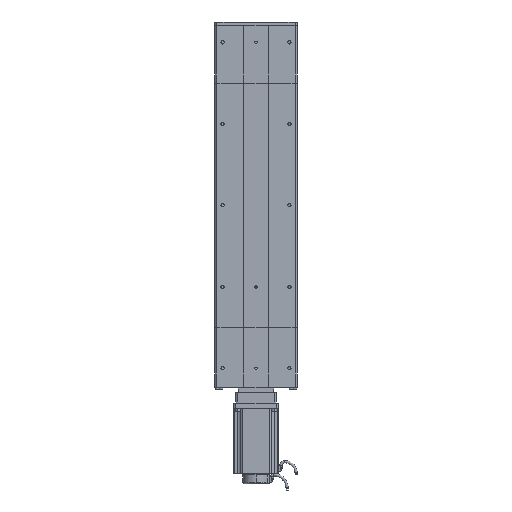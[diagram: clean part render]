
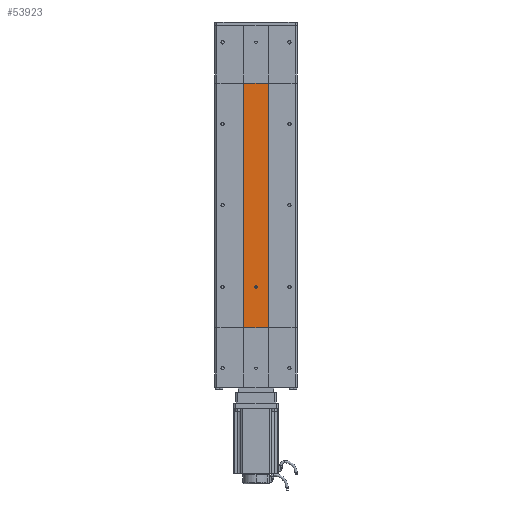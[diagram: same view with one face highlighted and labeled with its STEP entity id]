
A CAD part, front view. The second image highlights one B-rep face of the part: STEP entity #53923.
In plain terms, the highlighted planar face has unit normal (0, -1, 0).
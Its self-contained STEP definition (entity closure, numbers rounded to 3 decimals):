
#5909 = CARTESIAN_POINT ( 'NONE',  ( -30., -32.5, 600. ) ) ;
#6591 = CARTESIAN_POINT ( 'NONE',  ( 30., -32.5, 600. ) ) ;
#13529 = DIRECTION ( 'NONE',  ( -1., 0., 0. ) ) ;
#13531 = VECTOR ( 'NONE', #13529, 1000. ) ;
#13540 = CARTESIAN_POINT ( 'NONE',  ( -30., -32.5, 600. ) ) ;
#13542 = LINE ( 'NONE', #13540, #13531 ) ;
#15941 = FACE_OUTER_BOUND ( 'NONE', #53922, .T. ) ;
#15998 = PLANE ( 'NONE',  #16145 ) ;
#16090 = CARTESIAN_POINT ( 'NONE',  ( 30., -32.5, 0. ) ) ;
#16145 = AXIS2_PLACEMENT_3D ( 'NONE', #16274, #16272, #16229 ) ;
#16147 = FACE_BOUND ( 'NONE', #53854, .T. ) ;
#16229 = DIRECTION ( 'NONE',  ( 0., 0., 1. ) ) ;
#16272 = DIRECTION ( 'NONE',  ( 0., 1., 0. ) ) ;
#16274 = CARTESIAN_POINT ( 'NONE',  ( -30., -32.5, 0. ) ) ;
#16415 = DIRECTION ( 'NONE',  ( 0., 0., 1. ) ) ;
#16417 = VECTOR ( 'NONE', #16415, 1000. ) ;
#16418 = CARTESIAN_POINT ( 'NONE',  ( -30., -32.5, 0. ) ) ;
#16431 = LINE ( 'NONE', #16418, #16417 ) ;
#16465 = DIRECTION ( 'NONE',  ( 0., 0., 1. ) ) ;
#16467 = VECTOR ( 'NONE', #16465, 1000. ) ;
#16468 = CARTESIAN_POINT ( 'NONE',  ( 30., -32.5, 0. ) ) ;
#16469 = LINE ( 'NONE', #16468, #16467 ) ;
#17592 = DIRECTION ( 'NONE',  ( 0., 0., -1. ) ) ;
#17606 = DIRECTION ( 'NONE',  ( 0., -1., 0. ) ) ;
#17607 = CARTESIAN_POINT ( 'NONE',  ( 0., -32.5, 100. ) ) ;
#17608 = AXIS2_PLACEMENT_3D ( 'NONE', #17607, #17606, #17592 ) ;
#17643 = CIRCLE ( 'NONE', #17608, 3. ) ;
#25388 = DIRECTION ( 'NONE',  ( -1., 0., 0. ) ) ;
#25389 = VECTOR ( 'NONE', #25388, 1000. ) ;
#25390 = CARTESIAN_POINT ( 'NONE',  ( -30., -32.5, 0. ) ) ;
#25391 = LINE ( 'NONE', #25390, #25389 ) ;
#27740 = CARTESIAN_POINT ( 'NONE',  ( -30., -32.5, 0. ) ) ;
#49550 = EDGE_CURVE ( 'NONE', #49768, #49616, #74200, .T. ) ;
#49616 = VERTEX_POINT ( 'NONE', #74493 ) ;
#49768 = VERTEX_POINT ( 'NONE', #74886 ) ;
#51210 = EDGE_CURVE ( 'NONE', #51492, #51309, #13542, .T. ) ;
#51309 = VERTEX_POINT ( 'NONE', #5909 ) ;
#51492 = VERTEX_POINT ( 'NONE', #6591 ) ;
#53840 = EDGE_CURVE ( 'NONE', #53937, #56686, #25391, .T. ) ;
#53854 = EDGE_LOOP ( 'NONE', ( #53888, #53894 ) ) ;
#53888 = ORIENTED_EDGE ( 'NONE', *, *, #54019, .F. ) ;
#53894 = ORIENTED_EDGE ( 'NONE', *, *, #49550, .F. ) ;
#53922 = EDGE_LOOP ( 'NONE', ( #54021, #53967, #53969, #54037 ) ) ;
#53923 = ADVANCED_FACE ( 'NONE', ( #16147, #15941 ), #15998, .F. ) ;
#53937 = VERTEX_POINT ( 'NONE', #16090 ) ;
#53967 = ORIENTED_EDGE ( 'NONE', *, *, #53978, .F. ) ;
#53968 = EDGE_CURVE ( 'NONE', #53937, #51492, #16469, .T. ) ;
#53969 = ORIENTED_EDGE ( 'NONE', *, *, #53840, .F. ) ;
#53978 = EDGE_CURVE ( 'NONE', #56686, #51309, #16431, .T. ) ;
#54019 = EDGE_CURVE ( 'NONE', #49616, #49768, #17643, .T. ) ;
#54021 = ORIENTED_EDGE ( 'NONE', *, *, #51210, .T. ) ;
#54037 = ORIENTED_EDGE ( 'NONE', *, *, #53968, .T. ) ;
#56686 = VERTEX_POINT ( 'NONE', #27740 ) ;
#74200 = CIRCLE ( 'NONE', #74278, 3. ) ;
#74275 = DIRECTION ( 'NONE',  ( 0., 0., -1. ) ) ;
#74276 = DIRECTION ( 'NONE',  ( 0., -1., 0. ) ) ;
#74277 = CARTESIAN_POINT ( 'NONE',  ( 0., -32.5, 100. ) ) ;
#74278 = AXIS2_PLACEMENT_3D ( 'NONE', #74277, #74276, #74275 ) ;
#74493 = CARTESIAN_POINT ( 'NONE',  ( 0., -32.5, 97. ) ) ;
#74886 = CARTESIAN_POINT ( 'NONE',  ( 0., -32.5, 103. ) ) ;
